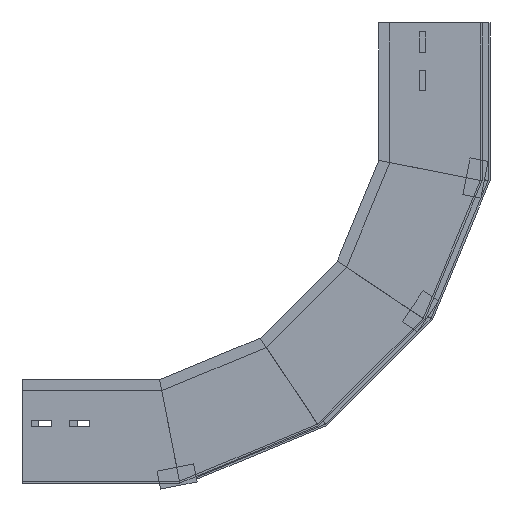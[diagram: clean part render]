
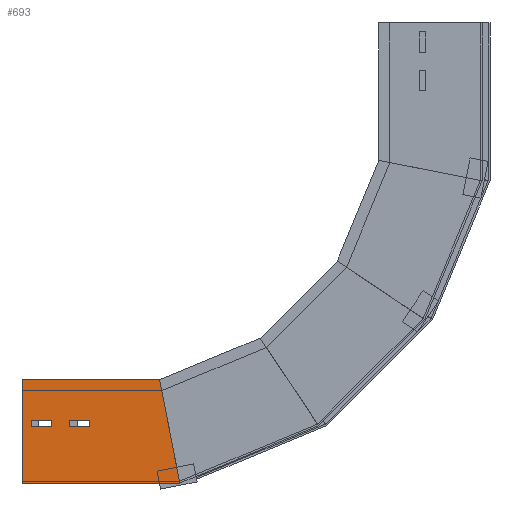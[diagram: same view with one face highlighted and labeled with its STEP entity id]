
A CAD part, left-side view. The second image highlights one B-rep face of the part: STEP entity #693.
In plain terms, the highlighted planar face has unit normal (-1, 0, 0) as drawn and (1, 0, 0) by its records, which use the part's own axes.
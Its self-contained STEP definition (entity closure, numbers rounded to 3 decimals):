
#16 = EDGE_CURVE ( 'NONE', #1272, #549, #1188, .T. ) ;
#17 = DIRECTION ( 'NONE',  ( 0., 1., 0. ) ) ;
#48 = VERTEX_POINT ( 'NONE', #344 ) ;
#109 = VERTEX_POINT ( 'NONE', #1523 ) ;
#120 = ORIENTED_EDGE ( 'NONE', *, *, #1699, .T. ) ;
#131 = VERTEX_POINT ( 'NONE', #1082 ) ;
#222 = EDGE_CURVE ( 'NONE', #1225, #1830, #1148, .T. ) ;
#235 = VECTOR ( 'NONE', #266, 1000. ) ;
#240 = DIRECTION ( 'NONE',  ( 0., 1., 0. ) ) ;
#249 = CARTESIAN_POINT ( 'NONE',  ( 0., 61.5, -9.835 ) ) ;
#252 = CARTESIAN_POINT ( 'NONE',  ( 0., 68.5, -9.835 ) ) ;
#264 = ORIENTED_EDGE ( 'NONE', *, *, #362, .T. ) ;
#266 = DIRECTION ( 'NONE',  ( 0., 0., 1. ) ) ;
#280 = VERTEX_POINT ( 'NONE', #1697 ) ;
#321 = VECTOR ( 'NONE', #240, 1000. ) ;
#331 = VECTOR ( 'NONE', #1782, 1000. ) ;
#344 = CARTESIAN_POINT ( 'NONE',  ( 0., 112.5, 0. ) ) ;
#355 = ORIENTED_EDGE ( 'NONE', *, *, #1600, .T. ) ;
#362 = EDGE_CURVE ( 'NONE', #280, #1272, #1180, .T. ) ;
#372 = ORIENTED_EDGE ( 'NONE', *, *, #1111, .T. ) ;
#461 = DIRECTION ( 'NONE',  ( 0., 0., 1. ) ) ;
#483 = EDGE_LOOP ( 'NONE', ( #854, #494, #510, #264 ) ) ;
#494 = ORIENTED_EDGE ( 'NONE', *, *, #1780, .T. ) ;
#498 = DIRECTION ( 'NONE',  ( 0., -1., 0. ) ) ;
#506 = EDGE_CURVE ( 'NONE', #48, #109, #1202, .T. ) ;
#510 = ORIENTED_EDGE ( 'NONE', *, *, #550, .T. ) ;
#511 = CARTESIAN_POINT ( 'NONE',  ( 0., 68.5, -73.505 ) ) ;
#521 = FACE_OUTER_BOUND ( 'NONE', #960, .T. ) ;
#549 = VERTEX_POINT ( 'NONE', #628 ) ;
#550 = EDGE_CURVE ( 'NONE', #1709, #280, #1800, .T. ) ;
#558 = FACE_BOUND ( 'NONE', #1415, .T. ) ;
#614 = VECTOR ( 'NONE', #1390, 1000. ) ;
#628 = CARTESIAN_POINT ( 'NONE',  ( 0., 68.5, -9.835 ) ) ;
#632 = ORIENTED_EDGE ( 'NONE', *, *, #1095, .T. ) ;
#642 = ORIENTED_EDGE ( 'NONE', *, *, #506, .F. ) ;
#661 = VECTOR ( 'NONE', #1532, 1000. ) ;
#686 = ORIENTED_EDGE ( 'NONE', *, *, #1015, .F. ) ;
#693 = ADVANCED_FACE ( 'NONE', ( #558, #521, #1577 ), #1714, .F. ) ;
#720 = LINE ( 'NONE', #1126, #1393 ) ;
#765 = VECTOR ( 'NONE', #17, 1000. ) ;
#789 = ORIENTED_EDGE ( 'NONE', *, *, #222, .T. ) ;
#793 = CARTESIAN_POINT ( 'NONE',  ( 0., 0., 0. ) ) ;
#819 = VERTEX_POINT ( 'NONE', #1147 ) ;
#854 = ORIENTED_EDGE ( 'NONE', *, *, #16, .T. ) ;
#904 = CARTESIAN_POINT ( 'NONE',  ( 0., 32.93, -165.55 ) ) ;
#931 = CARTESIAN_POINT ( 'NONE',  ( 0., 112.5, 0. ) ) ;
#960 = EDGE_LOOP ( 'NONE', ( #642, #1425, #632, #686 ) ) ;
#995 = LINE ( 'NONE', #252, #661 ) ;
#1011 = CARTESIAN_POINT ( 'NONE',  ( 0., 61.5, -51.505 ) ) ;
#1012 = CARTESIAN_POINT ( 'NONE',  ( 0., 0., 0. ) ) ;
#1015 = EDGE_CURVE ( 'NONE', #109, #819, #1466, .T. ) ;
#1022 = VECTOR ( 'NONE', #1434, 1000. ) ;
#1070 = VERTEX_POINT ( 'NONE', #1371 ) ;
#1082 = CARTESIAN_POINT ( 'NONE',  ( 0., 68.5, -51.505 ) ) ;
#1095 = EDGE_CURVE ( 'NONE', #1070, #819, #1807, .T. ) ;
#1096 = LINE ( 'NONE', #1248, #1168 ) ;
#1101 = VECTOR ( 'NONE', #1481, 1000. ) ;
#1111 = EDGE_CURVE ( 'NONE', #1730, #1225, #1096, .T. ) ;
#1126 = CARTESIAN_POINT ( 'NONE',  ( 0., 68.5, -51.505 ) ) ;
#1147 = CARTESIAN_POINT ( 'NONE',  ( 0., 0., -172.1 ) ) ;
#1148 = LINE ( 'NONE', #1011, #235 ) ;
#1164 = CARTESIAN_POINT ( 'NONE',  ( 0., 61.5, -51.505 ) ) ;
#1168 = VECTOR ( 'NONE', #498, 1000. ) ;
#1180 = LINE ( 'NONE', #1761, #1502 ) ;
#1188 = LINE ( 'NONE', #1493, #765 ) ;
#1202 = LINE ( 'NONE', #931, #1828 ) ;
#1219 = DIRECTION ( 'NONE',  ( 0., 0., -1. ) ) ;
#1225 = VERTEX_POINT ( 'NONE', #1286 ) ;
#1245 = EDGE_CURVE ( 'NONE', #1070, #48, #1575, .T. ) ;
#1248 = CARTESIAN_POINT ( 'NONE',  ( 0., 68.5, -73.505 ) ) ;
#1257 = AXIS2_PLACEMENT_3D ( 'NONE', #1416, #1426, #1874 ) ;
#1264 = LINE ( 'NONE', #1540, #321 ) ;
#1272 = VERTEX_POINT ( 'NONE', #249 ) ;
#1286 = CARTESIAN_POINT ( 'NONE',  ( 0., 61.5, -73.505 ) ) ;
#1365 = CARTESIAN_POINT ( 'NONE',  ( 0., 68.5, -31.835 ) ) ;
#1371 = CARTESIAN_POINT ( 'NONE',  ( 0., 0., 0. ) ) ;
#1390 = DIRECTION ( 'NONE',  ( 0., 0., -1. ) ) ;
#1393 = VECTOR ( 'NONE', #1712, 1000. ) ;
#1415 = EDGE_LOOP ( 'NONE', ( #120, #355, #372, #789 ) ) ;
#1416 = CARTESIAN_POINT ( 'NONE',  ( 0., 0., 0. ) ) ;
#1425 = ORIENTED_EDGE ( 'NONE', *, *, #1245, .F. ) ;
#1426 = DIRECTION ( 'NONE',  ( -1., 0., 0. ) ) ;
#1434 = DIRECTION ( 'NONE',  ( 0., 1., 0. ) ) ;
#1466 = LINE ( 'NONE', #904, #1101 ) ;
#1481 = DIRECTION ( 'NONE',  ( 0., -0.981, -0.195 ) ) ;
#1493 = CARTESIAN_POINT ( 'NONE',  ( 0., 68.5, -9.835 ) ) ;
#1502 = VECTOR ( 'NONE', #461, 1000. ) ;
#1523 = CARTESIAN_POINT ( 'NONE',  ( 0., 112.5, -149.722 ) ) ;
#1532 = DIRECTION ( 'NONE',  ( 0., 0., -1. ) ) ;
#1540 = CARTESIAN_POINT ( 'NONE',  ( 0., 68.5, -51.505 ) ) ;
#1575 = LINE ( 'NONE', #1012, #1022 ) ;
#1577 = FACE_BOUND ( 'NONE', #483, .T. ) ;
#1600 = EDGE_CURVE ( 'NONE', #131, #1730, #720, .T. ) ;
#1697 = CARTESIAN_POINT ( 'NONE',  ( 0., 61.5, -31.835 ) ) ;
#1699 = EDGE_CURVE ( 'NONE', #1830, #131, #1264, .T. ) ;
#1709 = VERTEX_POINT ( 'NONE', #1838 ) ;
#1712 = DIRECTION ( 'NONE',  ( 0., 0., -1. ) ) ;
#1714 = PLANE ( 'NONE',  #1257 ) ;
#1730 = VERTEX_POINT ( 'NONE', #511 ) ;
#1761 = CARTESIAN_POINT ( 'NONE',  ( 0., 61.5, -9.835 ) ) ;
#1780 = EDGE_CURVE ( 'NONE', #549, #1709, #995, .T. ) ;
#1782 = DIRECTION ( 'NONE',  ( 0., -1., 0. ) ) ;
#1800 = LINE ( 'NONE', #1365, #331 ) ;
#1807 = LINE ( 'NONE', #793, #614 ) ;
#1828 = VECTOR ( 'NONE', #1219, 1000. ) ;
#1830 = VERTEX_POINT ( 'NONE', #1164 ) ;
#1838 = CARTESIAN_POINT ( 'NONE',  ( 0., 68.5, -31.835 ) ) ;
#1874 = DIRECTION ( 'NONE',  ( 0., 0., 1. ) ) ;
